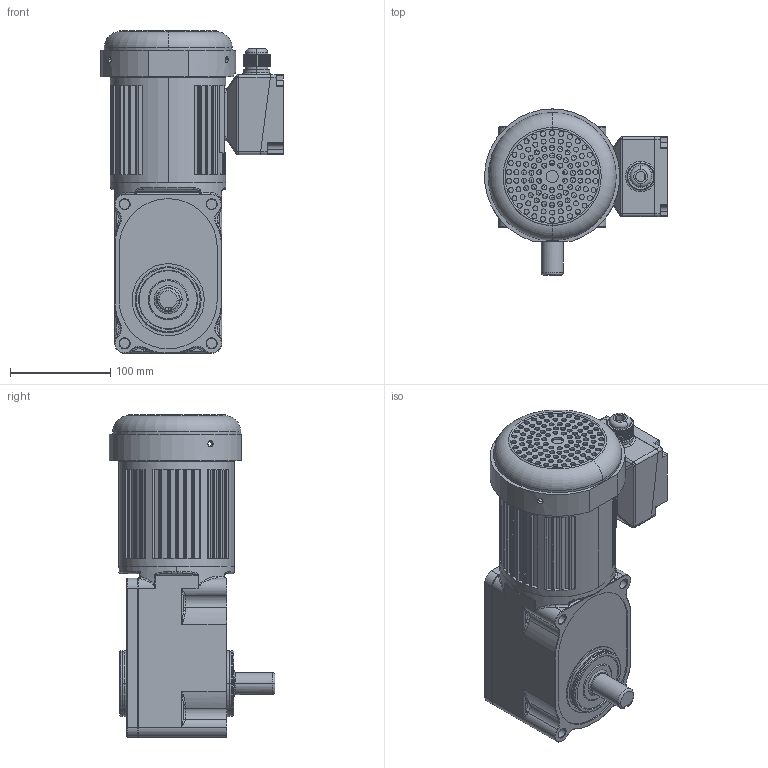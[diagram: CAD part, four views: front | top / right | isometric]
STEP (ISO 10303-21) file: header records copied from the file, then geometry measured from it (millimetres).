
FILE_DESCRIPTION (( 'STEP AP203' ), '1' );
FILE_NAME ('ZDF3-22A80K-240K-100-S3.STEP', '2020-05-05T06:04:32', ( '' ), ( '' ), 'SwSTEP 2.0', 'SolidWorks 2019', '' );
FILE_SCHEMA (( 'CONFIG_CONTROL_DESIGN' ));
Products named in the file (3): ZDF3-22A80K-240K-100-S3(B); ZDF3-22A80K-240K-100-S3; 嫖萇儂
Assembly tree (2 placements, depth 2):
  ZDF3-22A80K-240K-100-S3
    ZDF3-22A80K-240K-100-S3(B)
    嫖萇儂
Bounding box: 182.35 x 165.5 x 322.33 mm (x, y, z)
Volume: 2192569.5 mm3; surface area: 373831.8 mm2
Topology: 8 solids, 8 shells, 2045 faces, 5258 edges, 3265 vertices
Faces by surface type: cylinder 1075, plane 465, torus 229, bspline 139, cone 97, sphere 40
Entity records: 73652 total; most frequent: CARTESIAN_POINT 23168, DIRECTION 11023, ORIENTED_EDGE 10420, EDGE_CURVE 5210, AXIS2_PLACEMENT_3D 4505, VERTEX_POINT 3265, CIRCLE 2594, EDGE_LOOP 2399
